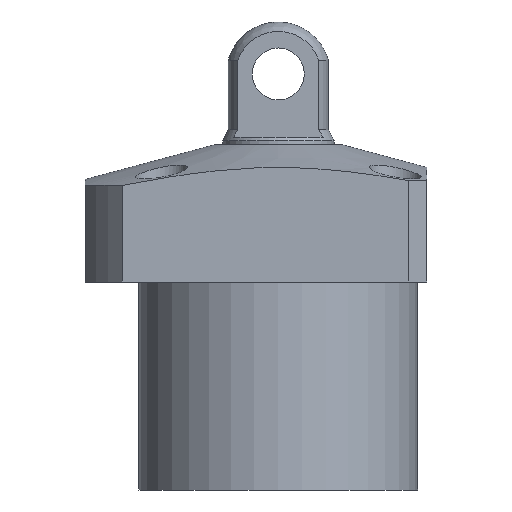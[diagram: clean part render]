
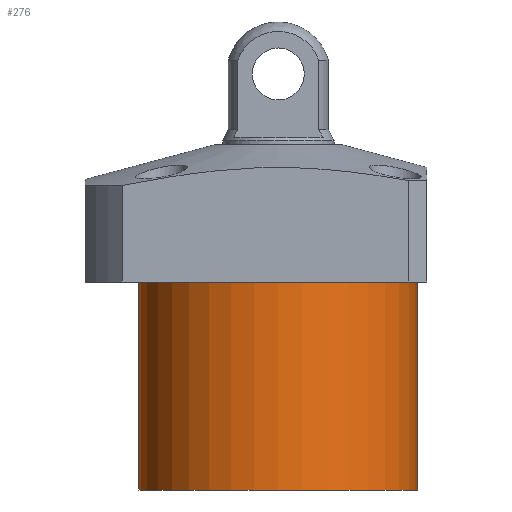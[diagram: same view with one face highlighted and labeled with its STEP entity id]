
A CAD part, front view. The second image highlights one B-rep face of the part: STEP entity #276.
In plain terms, the highlighted cylindrical face has radius 37.5 mm (diameter 75 mm), a partial arc.
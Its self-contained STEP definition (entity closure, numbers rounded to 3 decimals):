
#150 = VERTEX_POINT ( 'NONE', #1894 ) ;
#275 = DIRECTION ( 'NONE',  ( -1., 0., 0. ) ) ;
#276 = ADVANCED_FACE ( 'NONE', ( #1642 ), #1214, .T. ) ;
#298 = ORIENTED_EDGE ( 'NONE', *, *, #1924, .T. ) ;
#483 = CARTESIAN_POINT ( 'NONE',  ( 0., 0., -74.5 ) ) ;
#521 = CARTESIAN_POINT ( 'NONE',  ( 37.5, 0., -74.5 ) ) ;
#638 = CARTESIAN_POINT ( 'NONE',  ( 0., 0., -74.5 ) ) ;
#716 = ORIENTED_EDGE ( 'NONE', *, *, #831, .T. ) ;
#727 = VECTOR ( 'NONE', #1599, 1000. ) ;
#731 = EDGE_CURVE ( 'NONE', #1000, #2337, #1951, .T. ) ;
#831 = EDGE_CURVE ( 'NONE', #150, #2337, #2119, .T. ) ;
#843 = CARTESIAN_POINT ( 'NONE',  ( -37.5, 0., -18.5 ) ) ;
#882 = DIRECTION ( 'NONE',  ( 0., 0., 1. ) ) ;
#975 = ORIENTED_EDGE ( 'NONE', *, *, #1248, .F. ) ;
#991 = CARTESIAN_POINT ( 'NONE',  ( 37.5, 0., -74.5 ) ) ;
#1000 = VERTEX_POINT ( 'NONE', #2367 ) ;
#1015 = VECTOR ( 'NONE', #1195, 1000. ) ;
#1045 = AXIS2_PLACEMENT_3D ( 'NONE', #638, #1726, #275 ) ;
#1072 = LINE ( 'NONE', #521, #727 ) ;
#1079 = EDGE_LOOP ( 'NONE', ( #1093, #975, #298, #716 ) ) ;
#1093 = ORIENTED_EDGE ( 'NONE', *, *, #731, .F. ) ;
#1195 = DIRECTION ( 'NONE',  ( 0., 0., 1. ) ) ;
#1208 = CARTESIAN_POINT ( 'NONE',  ( -37.5, 0., -74.5 ) ) ;
#1214 = CYLINDRICAL_SURFACE ( 'NONE', #1446, 37.5 ) ;
#1248 = EDGE_CURVE ( 'NONE', #1883, #1000, #1546, .T. ) ;
#1411 = DIRECTION ( 'NONE',  ( 0., 0., -1. ) ) ;
#1446 = AXIS2_PLACEMENT_3D ( 'NONE', #483, #882, #2355 ) ;
#1459 = AXIS2_PLACEMENT_3D ( 'NONE', #1937, #1411, #2334 ) ;
#1546 = CIRCLE ( 'NONE', #1045, 37.5 ) ;
#1599 = DIRECTION ( 'NONE',  ( 0., 0., 1. ) ) ;
#1642 = FACE_OUTER_BOUND ( 'NONE', #1079, .T. ) ;
#1726 = DIRECTION ( 'NONE',  ( 0., 0., -1. ) ) ;
#1883 = VERTEX_POINT ( 'NONE', #991 ) ;
#1894 = CARTESIAN_POINT ( 'NONE',  ( 37.5, 0., -18.5 ) ) ;
#1924 = EDGE_CURVE ( 'NONE', #1883, #150, #1072, .T. ) ;
#1937 = CARTESIAN_POINT ( 'NONE',  ( 0., 0., -18.5 ) ) ;
#1951 = LINE ( 'NONE', #1208, #1015 ) ;
#2119 = CIRCLE ( 'NONE', #1459, 37.5 ) ;
#2334 = DIRECTION ( 'NONE',  ( 1., 0., 0. ) ) ;
#2337 = VERTEX_POINT ( 'NONE', #843 ) ;
#2355 = DIRECTION ( 'NONE',  ( 1., 0., 0. ) ) ;
#2367 = CARTESIAN_POINT ( 'NONE',  ( -37.5, 0., -74.5 ) ) ;
